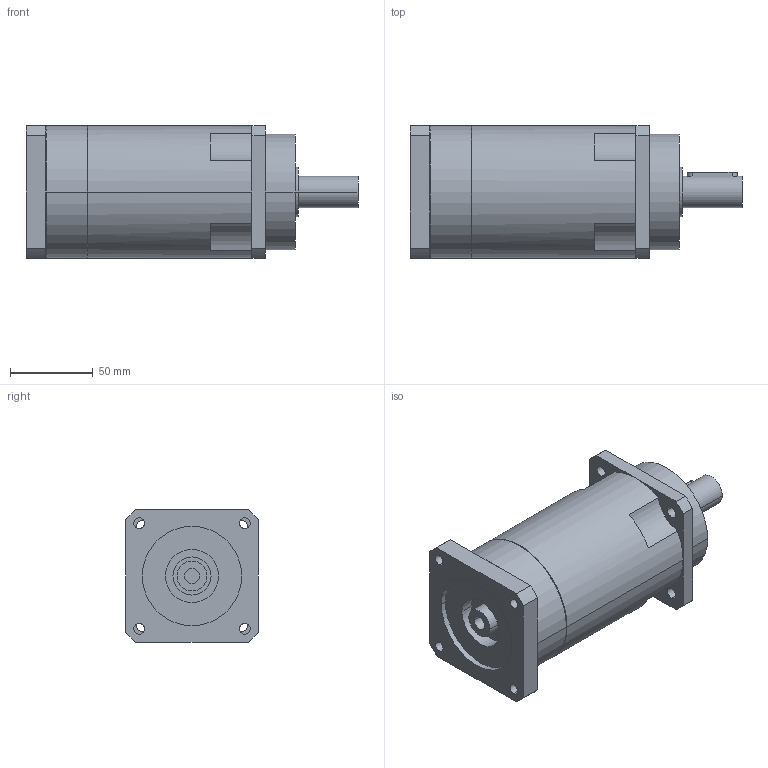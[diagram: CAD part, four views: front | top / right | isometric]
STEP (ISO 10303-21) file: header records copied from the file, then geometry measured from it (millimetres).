
FILE_DESCRIPTION(('CoCreate Modeling STEP Export'),'2;1');
FILE_NAME('GPR100_ig-48-64-80-100-120-144-180-216_19_B5_9_P19.stp','2014-08-26T13:05:21',(''),(''),'CoCreate Modeling STEP processor for AP214 (Solid Model)','CoCreate Modeling 16.00C 25-Feb-2009 (C) Parametric Technology GmbH','');
FILE_SCHEMA(('AUTOMOTIVE_DESIGN { 1 0 10303 214 1 1 1 1 }'));
Length unit declared in the file: millimetre
Products named in the file (2): GPR100_ig-48-64-80-100-120-144-180-216_19_B5_9_P19
Assembly tree (1 placements, depth 2):
  GPR100_ig-48-64-80-100-120-144-180-216_19_B5_9_P19
    GPR100_ig-48-64-80-100-120-144-180-216_19_B5_9_P19
Bounding box: 200.4 x 80 x 80 mm (x, y, z)
Volume: 804054.3 mm3; surface area: 64647.5 mm2
Topology: 1 solids, 1 shells, 101 faces, 287 edges, 197 vertices
Faces by surface type: cylinder 60, plane 35, cone 6
Entity records: 2996 total; most frequent: CARTESIAN_POINT 578, ORIENTED_EDGE 570, DIRECTION 426, EDGE_CURVE 285, VERTEX_POINT 197, AXIS2_PLACEMENT_3D 161, EDGE_LOOP 128, VECTOR 104
